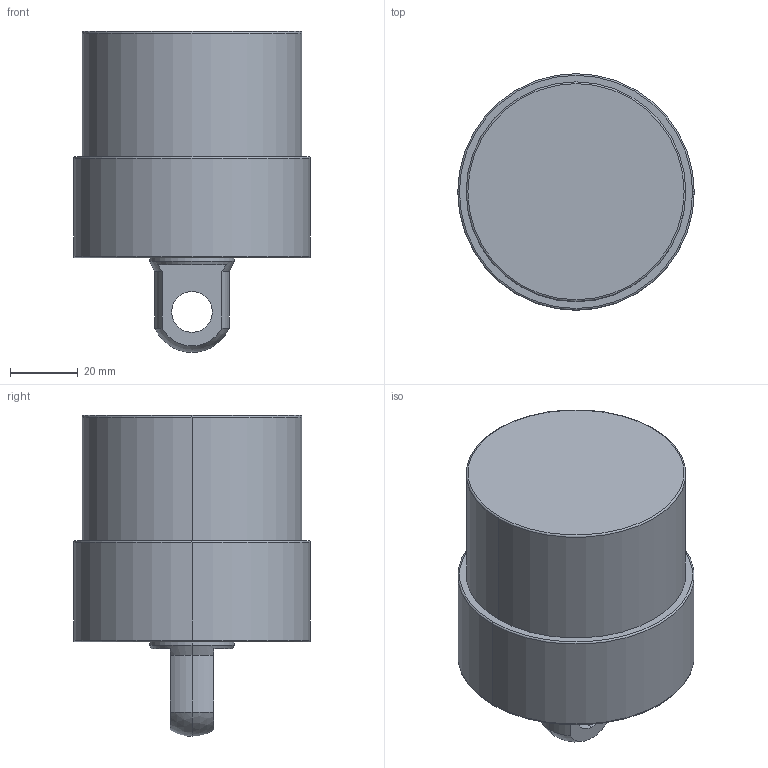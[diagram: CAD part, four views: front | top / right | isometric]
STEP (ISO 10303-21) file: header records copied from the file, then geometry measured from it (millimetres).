
FILE_DESCRIPTION (( 'STEP AP203' ), '1' );
FILE_NAME ('CLLU-065GP-020.STEP', '2020-01-06T09:17:15', ( '' ), ( '' ), 'SwSTEP 2.0', 'SolidWorks 2015', '' );
FILE_SCHEMA (( 'CONFIG_CONTROL_DESIGN' ));
Length unit declared in the file: millimetre
Products named in the file (1): CLLU-065GP-020
Bounding box: 70 x 70 x 95 mm (x, y, z)
Volume: 242419.1 mm3; surface area: 24650.7 mm2
Topology: 1 solids, 1 shells, 58 faces, 131 edges, 75 vertices
Faces by surface type: cylinder 23, cone 18, plane 9, torus 6, sphere 2
Entity records: 1658 total; most frequent: DIRECTION 311, CARTESIAN_POINT 269, ORIENTED_EDGE 246, AXIS2_PLACEMENT_3D 133, EDGE_CURVE 123, VERTEX_POINT 75, CIRCLE 74, EDGE_LOOP 68
